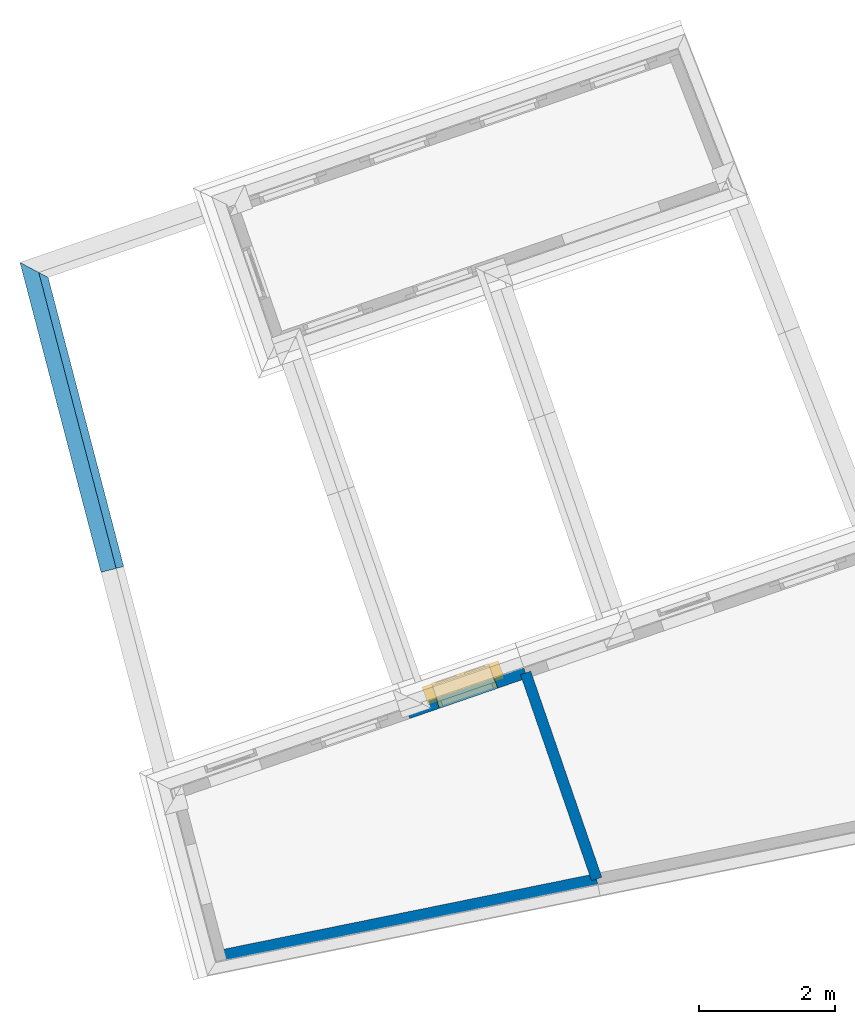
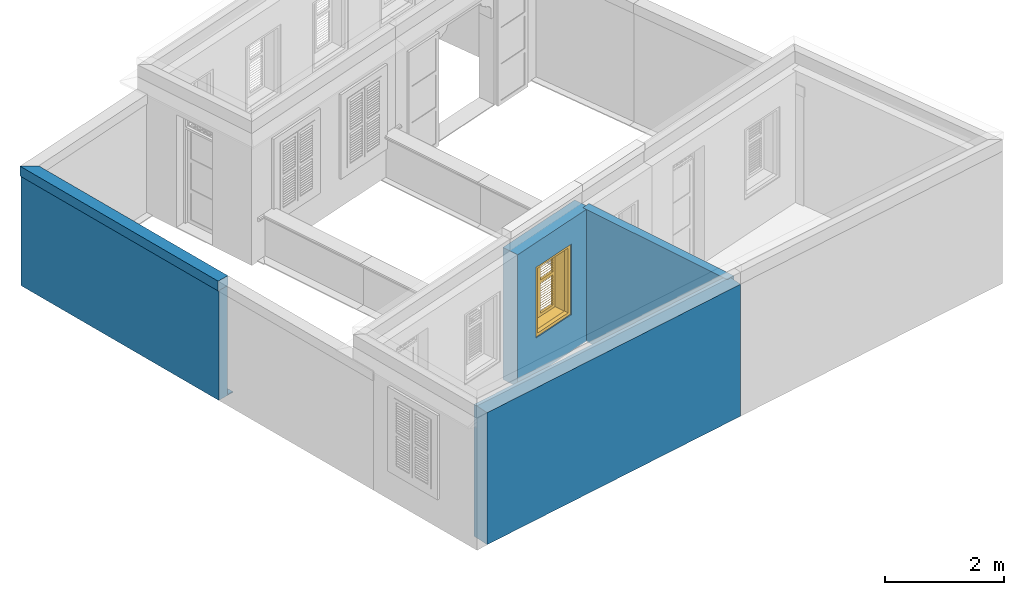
# One storey, part 4 of 16: 5 walls, 1 window, 1 opening.
"""IFC4 building model written with IfcOpenShell, lengths in metres."""

from ifc_helpers import new_model, si_unit, frame, origin, origin_with_axes, place, context, subcontext, project, spatial, polyline, outline, extrude, clip, halfspace, faceted_brep, source, transform, mapped, material, layer, layer_set, layer_usage, material_profile, profile_set, profile_usage, type_object, type_shapes, element, fill, save


model = new_model("IFC4")

# Units and contexts
model_context = context("Model", 3, world=origin_with_axes())
body_context = subcontext(model_context, "Body", "Model", "MODEL_VIEW")
ifc_project = project(units=[si_unit("PLANEANGLEUNIT", "RADIAN"), si_unit("MASSUNIT", "GRAM", prefix="KILO"), si_unit("FORCEUNIT", "NEWTON", prefix="KILO"), si_unit("LENGTHUNIT", "METRE"), si_unit("AREAUNIT", "SQUARE_METRE"), si_unit("VOLUMEUNIT", "CUBIC_METRE")], contexts=[model_context, model_context])

# Site, building, storey
site_placement = place(None, origin_with_axes())
site = spatial("IfcSite", under=ifc_project, at=site_placement, Name="Site plot-8", CompositionType="ELEMENT")
building_placement = place(None, origin_with_axes())
building = spatial("IfcBuilding", under=site, at=building_placement, Name="Building plot-8", CompositionType="ELEMENT")
storey_placement = place(None, frame((0.0, 0.0, 3.0), z_axis=(0.0, 0.0, 1.0), x_axis=(1.0, 0.0, 0.0)))
storey = spatial("IfcBuildingStorey", under=building, at=storey_placement, Name="plot-8 1", CompositionType="ELEMENT", Elevation=3.0)

# Wall, opening, window
ifc_material_1 = material(Name="Masonry")
ifc_layer_1 = layer(ifc_material_1, 0.33, ventilated=False)
ifc_layer_set_1 = layer_set([ifc_layer_1], Name="exterior_0.08_0.25")
ifc_layer_usage_1 = layer_usage(ifc_layer_set_1, "AXIS2", "POSITIVE", -0.25)
wall_type_1 = type_object("IfcWallType", Name="exterior_0.08_0.25", PredefinedType="SOLIDWALL", material=ifc_layer_set_1)
wall_1_placement = place(storey_placement, frame((-7.9574852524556, 15.6278516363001, 0.0), z_axis=(0.0, 0.0, 1.0), x_axis=(-0.945331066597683, -0.326112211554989, 0.0)))
wall_1 = element("IfcWall", 1, at=wall_1_placement, inside=storey, type_object=wall_type_1, material=ifc_layer_usage_1, Name="exterior", context=body_context, shape_type="SweptSolid", body=[
    extrude(outline(polyline([(4.11629879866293e-16, 0.0800000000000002), (8.47975353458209e-16, -0.25), (1.83415111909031, -0.25), (1.83415111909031, 0.08), (4.11629879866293e-16, 0.0800000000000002)])), origin_with_axes(), (0.0, 0.0, 1.0), 2.7),
])
opening_placement = place(wall_1_placement, frame((0.462075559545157, 0.0, 0.75)))
opening = element("IfcOpeningElement", 2, at=opening_placement, cuts=wall_1, Name="My Opening", ObjectType="Opening", context=body_context, shape_type="SweptSolid", body=[
    extrude(outline(polyline([(0.0, -0.27), (0.909999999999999, -0.27), (0.909999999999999, 1.1), (7.21644966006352e-16, 1.1), (0.0, -0.27)])), origin_with_axes(), (0.0, 0.0, 1.0), 1.445),
])
window_type = type_object("IfcWindowType", Name="shuttered_shorter", PartitioningType="DOUBLE_PANEL_HORIZONTAL", PredefinedType="NOTDEFINED")
shared_shape = source(origin(), body_context, "Body", "Brep", [
    faceted_brep([(0.393, 0.0, 0.622), (0.074, 0.0, 0.622), (0.074, 0.0, 0.632), (0.393, 0.0, 0.632), (0.074, -0.04, 0.592), (0.393, -0.04, 0.592), (0.393, -0.04, 0.582), (0.074, -0.04, 0.582), (0.517, 0.0, 0.682), (0.836, 0.0, 0.682), (0.836, 0.0, 0.672), (0.517, 0.0, 0.672), (0.517, -0.04, 0.642), (0.836, -0.04, 0.642), (0.836, -0.04, 0.632), (0.517, -0.04, 0.632), (0.517, 0.0, 0.632), (0.836, 0.0, 0.632), (0.836, 0.0, 0.622), (0.517, 0.0, 0.622), (0.517, -0.04, 0.592), (0.836, -0.04, 0.592), (0.836, -0.04, 0.582), (0.517, -0.04, 0.582), (0.517, 0.0, 0.232), (0.836, 0.0, 0.232), (0.836, 0.0, 0.222), (0.517, 0.0, 0.222), (0.517, -0.04, 0.192), (0.836, -0.04, 0.192), (0.836, -0.04, 0.182), (0.517, -0.04, 0.182), (0.517, 0.0, 0.532), (0.836, 0.0, 0.532), (0.836, 0.0, 0.522), (0.517, 0.0, 0.522), (0.517, -0.04, 0.492), (0.836, -0.04, 0.492), (0.836, -0.04, 0.482), (0.517, -0.04, 0.482), (0.517, 0.0, 0.482), (0.836, 0.0, 0.482), (0.836, 0.0, 0.472), (0.517, 0.0, 0.472), (0.517, -0.04, 0.442), (0.836, -0.04, 0.442), (0.836, -0.04, 0.432), (0.517, -0.04, 0.432), (0.517, 0.0, 0.582), (0.836, 0.0, 0.582), (0.836, 0.0, 0.572), (0.517, 0.0, 0.572), (0.517, -0.04, 0.542), (0.836, -0.04, 0.542), (0.836, -0.04, 0.532), (0.517, -0.04, 0.532), (0.517, 0.0, 0.182), (0.836, 0.0, 0.182), (0.836, 0.0, 0.172), (0.517, 0.0, 0.172), (0.517, -0.04, 0.142), (0.836, -0.04, 0.142), (0.836, -0.04, 0.132), (0.517, -0.04, 0.132), (0.517, 0.0, 0.382), (0.836, 0.0, 0.382), (0.836, 0.0, 0.372), (0.517, 0.0, 0.372), (0.517, -0.04, 0.342), (0.836, -0.04, 0.342), (0.836, -0.04, 0.332), (0.517, -0.04, 0.332), (0.517, 0.0, 0.432), (0.836, 0.0, 0.432), (0.836, 0.0, 0.422), (0.517, 0.0, 0.422), (0.517, -0.04, 0.392), (0.836, -0.04, 0.392), (0.836, -0.04, 0.382), (0.517, -0.04, 0.382), (0.517, 0.0, 0.132), (0.836, 0.0, 0.132), (0.836, 0.0, 0.122), (0.517, 0.0, 0.122), (0.517, -0.04, 0.092), (0.836, -0.04, 0.092), (0.836, -0.04, 0.082), (0.517, -0.04, 0.082), (0.517, 0.0, 0.282), (0.836, 0.0, 0.282), (0.836, 0.0, 0.272), (0.517, 0.0, 0.272), (0.517, -0.04, 0.242), (0.836, -0.04, 0.242), (0.836, -0.04, 0.232), (0.517, -0.04, 0.232), (0.517, 0.0, 0.332), (0.836, 0.0, 0.332), (0.836, 0.0, 0.322), (0.517, 0.0, 0.322), (0.517, -0.04, 0.292), (0.836, -0.04, 0.292), (0.836, -0.04, 0.282), (0.517, -0.04, 0.282), (0.517, 0.0, 1.362667), (0.836, 0.0, 1.362667), (0.836, 0.0, 1.352667), (0.517, 0.0, 1.352667), (0.517, -0.04, 1.322667), (0.836, -0.04, 1.322667), (0.836, -0.04, 1.312667), (0.517, -0.04, 1.312667), (0.517, 0.0, 1.312667), (0.836, 0.0, 1.312667), (0.836, 0.0, 1.302667), (0.517, 0.0, 1.302667), (0.517, -0.04, 1.272667), (0.836, -0.04, 1.272667), (0.836, -0.04, 1.262667), (0.517, -0.04, 1.262667), (0.517, 0.0, 0.912667), (0.836, 0.0, 0.912667), (0.836, 0.0, 0.902667), (0.517, 0.0, 0.902667), (0.517, -0.04, 0.872667), (0.836, -0.04, 0.872667), (0.836, -0.04, 0.862667), (0.517, -0.04, 0.862667), (0.517, 0.0, 1.212667), (0.836, 0.0, 1.212667), (0.836, 0.0, 1.202667), (0.517, 0.0, 1.202667), (0.517, -0.04, 1.172667), (0.836, -0.04, 1.172667), (0.836, -0.04, 1.162667), (0.517, -0.04, 1.162667), (0.517, 0.0, 1.162667), (0.836, 0.0, 1.162667), (0.836, 0.0, 1.152667), (0.517, 0.0, 1.152667), (0.517, -0.04, 1.122667), (0.836, -0.04, 1.122667), (0.836, -0.04, 1.112667), (0.517, -0.04, 1.112667), (0.517, 0.0, 1.262667), (0.836, 0.0, 1.262667), (0.836, 0.0, 1.252667), (0.517, 0.0, 1.252667), (0.517, -0.04, 1.222667), (0.836, -0.04, 1.222667), (0.836, -0.04, 1.212667), (0.517, -0.04, 1.212667), (0.517, 0.0, 0.862667), (0.836, 0.0, 0.862667), (0.836, 0.0, 0.852667), (0.517, 0.0, 0.852667), (0.517, -0.04, 0.822667), (0.836, -0.04, 0.822667), (0.836, -0.04, 0.812667), (0.517, -0.04, 0.812667), (0.517, 0.0, 1.062667), (0.836, 0.0, 1.062667), (0.836, 0.0, 1.052667), (0.517, 0.0, 1.052667), (0.517, -0.04, 1.022667), (0.836, -0.04, 1.022667), (0.836, -0.04, 1.012667), (0.517, -0.04, 1.012667), (0.517, 0.0, 1.112667), (0.836, 0.0, 1.112667), (0.836, 0.0, 1.102667), (0.517, 0.0, 1.102667), (0.517, -0.04, 1.072667), (0.836, -0.04, 1.072667), (0.836, -0.04, 1.062667), (0.517, -0.04, 1.062667), (0.517, 0.0, 0.812667), (0.836, 0.0, 0.812667), (0.836, 0.0, 0.802667), (0.517, 0.0, 0.802667), (0.517, -0.04, 0.772667), (0.836, -0.04, 0.772667), (0.836, -0.04, 0.762667), (0.517, -0.04, 0.762667), (0.517, 0.0, 0.962667), (0.836, 0.0, 0.962667), (0.836, 0.0, 0.952667), (0.517, 0.0, 0.952667), (0.517, -0.04, 0.922667), (0.836, -0.04, 0.922667), (0.836, -0.04, 0.912667), (0.517, -0.04, 0.912667), (0.517, 0.0, 1.012667), (0.836, 0.0, 1.012667), (0.836, 0.0, 1.002667), (0.517, 0.0, 1.002667), (0.517, -0.04, 0.972667), (0.836, -0.04, 0.972667), (0.836, -0.04, 0.962667), (0.517, -0.04, 0.962667), (0.074, 0.0, 0.682), (0.393, 0.0, 0.682), (0.393, 0.0, 0.672), (0.074, 0.0, 0.672), (0.074, -0.04, 0.642), (0.393, -0.04, 0.642), (0.393, -0.04, 0.632), (0.074, -0.04, 0.632), (0.074, 0.0, 0.232), (0.393, 0.0, 0.232), (0.393, 0.0, 0.222), (0.074, 0.0, 0.222), (0.074, -0.04, 0.192), (0.393, -0.04, 0.192), (0.393, -0.04, 0.182), (0.074, -0.04, 0.182), (0.074, 0.0, 0.532), (0.393, 0.0, 0.532), (0.393, 0.0, 0.522), (0.074, 0.0, 0.522), (0.074, -0.04, 0.492), (0.393, -0.04, 0.492), (0.393, -0.04, 0.482), (0.074, -0.04, 0.482), (0.074, 0.0, 0.482), (0.393, 0.0, 0.482), (0.393, 0.0, 0.472), (0.074, 0.0, 0.472), (0.074, -0.04, 0.442), (0.393, -0.04, 0.442), (0.393, -0.04, 0.432), (0.074, -0.04, 0.432), (0.074, 0.0, 0.582), (0.393, 0.0, 0.582), (0.393, 0.0, 0.572), (0.074, 0.0, 0.572), (0.074, -0.04, 0.542), (0.393, -0.04, 0.542), (0.393, -0.04, 0.532), (0.074, -0.04, 0.532), (0.074, 0.0, 0.182), (0.393, 0.0, 0.182), (0.393, 0.0, 0.172), (0.074, 0.0, 0.172), (0.074, -0.04, 0.142), (0.393, -0.04, 0.142), (0.393, -0.04, 0.132), (0.074, -0.04, 0.132), (0.074, 0.0, 0.382), (0.393, 0.0, 0.382), (0.393, 0.0, 0.372), (0.074, 0.0, 0.372), (0.074, -0.04, 0.342), (0.393, -0.04, 0.342), (0.393, -0.04, 0.332), (0.074, -0.04, 0.332), (0.074, 0.0, 0.432), (0.393, 0.0, 0.432), (0.393, 0.0, 0.422), (0.074, 0.0, 0.422), (0.074, -0.04, 0.392), (0.393, -0.04, 0.392), (0.393, -0.04, 0.382), (0.074, -0.04, 0.382), (0.074, 0.0, 0.132), (0.393, 0.0, 0.132), (0.393, 0.0, 0.122), (0.074, 0.0, 0.122), (0.074, -0.04, 0.092), (0.393, -0.04, 0.092), (0.393, -0.04, 0.082), (0.074, -0.04, 0.082), (0.074, 0.0, 0.282), (0.393, 0.0, 0.282), (0.393, 0.0, 0.272), (0.074, 0.0, 0.272), (0.074, -0.04, 0.242), (0.393, -0.04, 0.242), (0.393, -0.04, 0.232), (0.074, -0.04, 0.232), (0.074, 0.0, 0.332), (0.393, 0.0, 0.332), (0.393, 0.0, 0.322), (0.074, 0.0, 0.322), (0.074, -0.04, 0.292), (0.393, -0.04, 0.292), (0.393, -0.04, 0.282), (0.074, -0.04, 0.282), (0.074, 0.0, 1.362667), (0.393, 0.0, 1.362667), (0.393, 0.0, 1.352667), (0.074, 0.0, 1.352667), (0.074, -0.04, 1.322667), (0.393, -0.04, 1.322667), (0.393, -0.04, 1.312667), (0.074, -0.04, 1.312667), (0.074, 0.0, 1.312667), (0.393, 0.0, 1.312667), (0.393, 0.0, 1.302667), (0.074, 0.0, 1.302667), (0.074, -0.04, 1.272667), (0.393, -0.04, 1.272667), (0.393, -0.04, 1.262667), (0.074, -0.04, 1.262667), (0.074, 0.0, 0.912667), (0.393, 0.0, 0.912667), (0.393, 0.0, 0.902667), (0.074, 0.0, 0.902667), (0.074, -0.04, 0.872667), (0.393, -0.04, 0.872667), (0.393, -0.04, 0.862667), (0.074, -0.04, 0.862667), (0.074, 0.0, 1.212667), (0.393, 0.0, 1.212667), (0.393, 0.0, 1.202667), (0.074, 0.0, 1.202667), (0.074, -0.04, 1.172667), (0.393, -0.04, 1.172667), (0.393, -0.04, 1.162667), (0.074, -0.04, 1.162667), (0.074, 0.0, 1.162667), (0.393, 0.0, 1.162667), (0.393, 0.0, 1.152667), (0.074, 0.0, 1.152667), (0.074, -0.04, 1.122667), (0.393, -0.04, 1.122667), (0.393, -0.04, 1.112667), (0.074, -0.04, 1.112667), (0.074, 0.0, 1.262667), (0.393, 0.0, 1.262667), (0.393, 0.0, 1.252667), (0.074, 0.0, 1.252667), (0.074, -0.04, 1.222667), (0.393, -0.04, 1.222667), (0.393, -0.04, 1.212667), (0.074, -0.04, 1.212667), (0.074, 0.0, 0.862667), (0.393, 0.0, 0.862667), (0.393, 0.0, 0.852667), (0.074, 0.0, 0.852667), (0.074, -0.04, 0.822667), (0.393, -0.04, 0.822667), (0.393, -0.04, 0.812667), (0.074, -0.04, 0.812667), (0.074, 0.0, 1.062667), (0.393, 0.0, 1.062667), (0.393, 0.0, 1.052667), (0.074, 0.0, 1.052667), (0.074, -0.04, 1.022667), (0.393, -0.04, 1.022667), (0.393, -0.04, 1.012667), (0.074, -0.04, 1.012667), (0.074, 0.0, 1.112667), (0.393, 0.0, 1.112667), (0.393, 0.0, 1.102667), (0.074, 0.0, 1.102667), (0.074, -0.04, 1.072667), (0.393, -0.04, 1.072667), (0.393, -0.04, 1.062667), (0.074, -0.04, 1.062667), (0.074, 0.0, 0.812667), (0.393, 0.0, 0.812667), (0.393, 0.0, 0.802667), (0.074, 0.0, 0.802667), (0.074, -0.04, 0.772667), (0.393, -0.04, 0.772667), (0.393, -0.04, 0.762667), (0.074, -0.04, 0.762667), (0.074, 0.0, 0.962667), (0.393, 0.0, 0.962667), (0.393, 0.0, 0.952667), (0.074, 0.0, 0.952667), (0.074, -0.04, 0.922667), (0.393, -0.04, 0.922667), (0.393, -0.04, 0.912667), (0.074, -0.04, 0.912667), (0.074, 0.0, 1.012667), (0.393, 0.0, 1.012667), (0.393, 0.0, 1.002667), (0.074, 0.0, 1.002667), (0.074, -0.04, 0.972667), (0.393, -0.04, 0.972667), (0.393, -0.04, 0.962667), (0.074, -0.04, 0.962667), (0.517, -0.04, 0.072), (0.457, -0.04, 0.012), (0.896, -0.04, 0.012), (0.836, -0.04, 0.072), (0.457, -0.04, 0.692667), (0.517, -0.04, 0.692667), (0.457, 0.0, 0.012), (0.896, 0.0, 0.012), (0.836, -0.04, 0.692667), (0.896, -0.04, 0.692667), (0.836, 0.0, 0.072), (0.517, 0.0, 0.072), (0.457, 0.0, 0.692667), (0.517, 0.0, 0.692667), (0.517, -0.04, 0.752666), (0.457, -0.04, 0.752666), (0.896, 0.0, 0.692667), (0.836, 0.0, 0.692667), (0.836, -0.04, 0.752666), (0.896, -0.04, 0.752666), (0.457, 0.0, 0.752666), (0.457, -0.04, 1.433333), (0.517, -0.04, 1.373333), (0.896, 0.0, 0.752666), (0.836, -0.04, 1.373333), (0.896, -0.04, 1.433333), (0.457, 0.0, 1.433333), (0.517, 0.0, 0.752666), (0.836, 0.0, 0.752666), (0.517, 0.0, 1.373333), (0.896, 0.0, 1.433333), (0.836, 0.0, 1.373333), (0.074, -0.04, 0.072), (0.014, -0.04, 0.012), (0.453, -0.04, 0.012), (0.393, -0.04, 0.072), (0.014, -0.04, 0.692667), (0.074, -0.04, 0.692667), (0.014, 0.0, 0.012), (0.453, 0.0, 0.012), (0.393, -0.04, 0.692667), (0.453, -0.04, 0.692667), (0.393, 0.0, 0.072), (0.074, 0.0, 0.072), (0.014, 0.0, 0.692667), (0.074, 0.0, 0.692667), (0.074, -0.04, 0.752666), (0.014, -0.04, 0.752666), (0.453, 0.0, 0.692667), (0.393, 0.0, 0.692667), (0.393, -0.04, 0.752666), (0.453, -0.04, 0.752666), (0.014, 0.0, 0.752666), (0.014, -0.04, 1.433333), (0.074, -0.04, 1.373333), (0.453, 0.0, 0.752666), (0.393, -0.04, 1.373333), (0.453, -0.04, 1.433333), (0.014, 0.0, 1.433333), (0.074, 0.0, 0.752666), (0.393, 0.0, 0.752666), (0.074, 0.0, 1.373333), (0.453, 0.0, 1.433333), (0.393, 0.0, 1.373333), (0.0, 0.33, 1.445), (0.91, 0.33, 1.445), (0.85, 0.33, 1.385), (0.06, 0.33, 1.385), (0.91, 0.25, 1.445), (0.0, 0.25, 1.445), (0.91, 0.25, 1.445), (0.85, 0.33, 0.06), (0.91, 0.33, 0.0), (0.85, 0.25, 1.385), (0.06, 0.25, 1.385), (0.0, 0.33, 0.0), (0.06, 0.33, 0.06), (0.0, 0.25, 0.0), (0.91, 0.25, 0.0), (0.85, 0.25, 0.06), (0.06, 0.25, 0.06), (1.05, 0.25, 1.585), (-0.14, 0.25, 1.585), (-0.14, -0.03, 1.585), (1.05, -0.03, 1.585), (0.9, -0.03, 1.435), (0.01, -0.03, 1.435), (0.01, 0.25, 1.435), (0.9, 0.25, 1.435), (0.9, 0.25, 0.01), (0.9, -0.03, 0.01), (1.05, -0.03, -0.14), (1.05, 0.25, -0.14), (0.01, -0.03, 0.01), (0.01, 0.25, 0.01), (-0.14, -0.03, -0.14), (-0.14, 0.25, -0.14)], [[[0, 1, 2, 3]], [[4, 5, 3, 2]], [[5, 6, 0, 3]], [[1, 0, 6, 7]], [[2, 1, 7, 4]], [[5, 4, 7, 6]], [[8, 9, 10, 11]], [[12, 13, 9, 8]], [[13, 14, 10, 9]], [[14, 15, 11, 10]], [[15, 12, 8, 11]], [[13, 12, 15, 14]], [[16, 17, 18, 19]], [[20, 21, 17, 16]], [[21, 22, 18, 17]], [[22, 23, 19, 18]], [[23, 20, 16, 19]], [[21, 20, 23, 22]], [[24, 25, 26, 27]], [[28, 29, 25, 24]], [[29, 30, 26, 25]], [[30, 31, 27, 26]], [[31, 28, 24, 27]], [[29, 28, 31, 30]], [[32, 33, 34, 35]], [[36, 37, 33, 32]], [[37, 38, 34, 33]], [[38, 39, 35, 34]], [[39, 36, 32, 35]], [[37, 36, 39, 38]], [[40, 41, 42, 43]], [[44, 45, 41, 40]], [[45, 46, 42, 41]], [[46, 47, 43, 42]], [[47, 44, 40, 43]], [[45, 44, 47, 46]], [[48, 49, 50, 51]], [[52, 53, 49, 48]], [[53, 54, 50, 49]], [[54, 55, 51, 50]], [[55, 52, 48, 51]], [[53, 52, 55, 54]], [[56, 57, 58, 59]], [[60, 61, 57, 56]], [[61, 62, 58, 57]], [[62, 63, 59, 58]], [[63, 60, 56, 59]], [[61, 60, 63, 62]], [[64, 65, 66, 67]], [[68, 69, 65, 64]], [[69, 70, 66, 65]], [[70, 71, 67, 66]], [[71, 68, 64, 67]], [[69, 68, 71, 70]], [[72, 73, 74, 75]], [[76, 77, 73, 72]], [[77, 78, 74, 73]], [[78, 79, 75, 74]], [[79, 76, 72, 75]], [[77, 76, 79, 78]], [[80, 81, 82, 83]], [[84, 85, 81, 80]], [[85, 86, 82, 81]], [[86, 87, 83, 82]], [[87, 84, 80, 83]], [[85, 84, 87, 86]], [[88, 89, 90, 91]], [[92, 93, 89, 88]], [[93, 94, 90, 89]], [[94, 95, 91, 90]], [[95, 92, 88, 91]], [[93, 92, 95, 94]], [[96, 97, 98, 99]], [[100, 101, 97, 96]], [[101, 102, 98, 97]], [[102, 103, 99, 98]], [[103, 100, 96, 99]], [[101, 100, 103, 102]], [[104, 105, 106, 107]], [[108, 109, 105, 104]], [[109, 110, 106, 105]], [[110, 111, 107, 106]], [[111, 108, 104, 107]], [[109, 108, 111, 110]], [[112, 113, 114, 115]], [[116, 117, 113, 112]], [[117, 118, 114, 113]], [[118, 119, 115, 114]], [[119, 116, 112, 115]], [[117, 116, 119, 118]], [[120, 121, 122, 123]], [[124, 125, 121, 120]], [[125, 126, 122, 121]], [[126, 127, 123, 122]], [[127, 124, 120, 123]], [[125, 124, 127, 126]], [[128, 129, 130, 131]], [[132, 133, 129, 128]], [[133, 134, 130, 129]], [[134, 135, 131, 130]], [[135, 132, 128, 131]], [[133, 132, 135, 134]], [[136, 137, 138, 139]], [[140, 141, 137, 136]], [[141, 142, 138, 137]], [[142, 143, 139, 138]], [[139, 143, 140, 136]], [[141, 140, 143, 142]], [[144, 145, 146, 147]], [[148, 149, 145, 144]], [[149, 150, 146, 145]], [[150, 151, 147, 146]], [[151, 148, 144, 147]], [[149, 148, 151, 150]], [[152, 153, 154, 155]], [[156, 157, 153, 152]], [[157, 158, 154, 153]], [[158, 159, 155, 154]], [[159, 156, 152, 155]], [[157, 156, 159, 158]], [[160, 161, 162, 163]], [[164, 165, 161, 160]], [[165, 166, 162, 161]], [[166, 167, 163, 162]], [[167, 164, 160, 163]], [[165, 164, 167, 166]], [[168, 169, 170, 171]], [[172, 173, 169, 168]], [[173, 174, 170, 169]], [[174, 175, 171, 170]], [[175, 172, 168, 171]], [[173, 172, 175, 174]], [[176, 177, 178, 179]], [[180, 181, 177, 176]], [[181, 182, 178, 177]], [[182, 183, 179, 178]], [[183, 180, 176, 179]], [[181, 180, 183, 182]], [[184, 185, 186, 187]], [[188, 189, 185, 184]], [[189, 190, 186, 185]], [[190, 191, 187, 186]], [[191, 188, 184, 187]], [[189, 188, 191, 190]], [[192, 193, 194, 195]], [[196, 197, 193, 192]], [[197, 198, 194, 193]], [[198, 199, 195, 194]], [[199, 196, 192, 195]], [[197, 196, 199, 198]], [[200, 201, 202, 203]], [[204, 205, 201, 200]], [[205, 206, 202, 201]], [[206, 207, 203, 202]], [[207, 204, 200, 203]], [[205, 204, 207, 206]], [[208, 209, 210, 211]], [[212, 213, 209, 208]], [[213, 214, 210, 209]], [[214, 215, 211, 210]], [[215, 212, 208, 211]], [[213, 212, 215, 214]], [[216, 217, 218, 219]], [[220, 221, 217, 216]], [[221, 222, 218, 217]], [[222, 223, 219, 218]], [[223, 220, 216, 219]], [[221, 220, 223, 222]], [[224, 225, 226, 227]], [[228, 229, 225, 224]], [[229, 230, 226, 225]], [[230, 231, 227, 226]], [[231, 228, 224, 227]], [[229, 228, 231, 230]], [[232, 233, 234, 235]], [[236, 237, 233, 232]], [[237, 238, 234, 233]], [[238, 239, 235, 234]], [[239, 236, 232, 235]], [[237, 236, 239, 238]], [[240, 241, 242, 243]], [[244, 245, 241, 240]], [[245, 246, 242, 241]], [[246, 247, 243, 242]], [[247, 244, 240, 243]], [[245, 244, 247, 246]], [[248, 249, 250, 251]], [[252, 253, 249, 248]], [[253, 254, 250, 249]], [[254, 255, 251, 250]], [[255, 252, 248, 251]], [[253, 252, 255, 254]], [[256, 257, 258, 259]], [[260, 261, 257, 256]], [[261, 262, 258, 257]], [[262, 263, 259, 258]], [[263, 260, 256, 259]], [[261, 260, 263, 262]], [[264, 265, 266, 267]], [[268, 269, 265, 264]], [[269, 270, 266, 265]], [[270, 271, 267, 266]], [[271, 268, 264, 267]], [[269, 268, 271, 270]], [[272, 273, 274, 275]], [[276, 277, 273, 272]], [[277, 278, 274, 273]], [[278, 279, 275, 274]], [[279, 276, 272, 275]], [[277, 276, 279, 278]], [[280, 281, 282, 283]], [[284, 285, 281, 280]], [[285, 286, 282, 281]], [[286, 287, 283, 282]], [[287, 284, 280, 283]], [[285, 284, 287, 286]], [[288, 289, 290, 291]], [[292, 293, 289, 288]], [[293, 294, 290, 289]], [[294, 295, 291, 290]], [[295, 292, 288, 291]], [[293, 292, 295, 294]], [[296, 297, 298, 299]], [[300, 301, 297, 296]], [[301, 302, 298, 297]], [[302, 303, 299, 298]], [[303, 300, 296, 299]], [[301, 300, 303, 302]], [[304, 305, 306, 307]], [[308, 309, 305, 304]], [[309, 310, 306, 305]], [[310, 311, 307, 306]], [[311, 308, 304, 307]], [[309, 308, 311, 310]], [[312, 313, 314, 315]], [[316, 317, 313, 312]], [[317, 318, 314, 313]], [[318, 319, 315, 314]], [[319, 316, 312, 315]], [[317, 316, 319, 318]], [[320, 321, 322, 323]], [[324, 325, 321, 320]], [[325, 326, 322, 321]], [[326, 327, 323, 322]], [[327, 324, 320, 323]], [[325, 324, 327, 326]], [[328, 329, 330, 331]], [[332, 333, 329, 328]], [[333, 334, 330, 329]], [[334, 335, 331, 330]], [[335, 332, 328, 331]], [[333, 332, 335, 334]], [[336, 337, 338, 339]], [[340, 341, 337, 336]], [[341, 342, 338, 337]], [[342, 343, 339, 338]], [[343, 340, 336, 339]], [[341, 340, 343, 342]], [[344, 345, 346, 347]], [[348, 349, 345, 344]], [[349, 350, 346, 345]], [[350, 351, 347, 346]], [[351, 348, 344, 347]], [[349, 348, 351, 350]], [[352, 353, 354, 355]], [[356, 357, 353, 352]], [[357, 358, 354, 353]], [[358, 359, 355, 354]], [[359, 356, 352, 355]], [[357, 356, 359, 358]], [[360, 361, 362, 363]], [[364, 365, 361, 360]], [[365, 366, 362, 361]], [[366, 367, 363, 362]], [[367, 364, 360, 363]], [[365, 364, 367, 366]], [[368, 369, 370, 371]], [[372, 373, 369, 368]], [[373, 374, 370, 369]], [[374, 375, 371, 370]], [[375, 372, 368, 371]], [[373, 372, 375, 374]], [[376, 377, 378, 379]], [[380, 381, 377, 376]], [[381, 382, 378, 377]], [[382, 383, 379, 378]], [[383, 380, 376, 379]], [[381, 380, 383, 382]], [[384, 385, 386, 387]], [[388, 385, 384, 389]], [[390, 391, 386, 385]], [[392, 387, 386, 393]], [[384, 387, 394, 395]], [[390, 385, 388, 396]], [[389, 384, 395, 397]], [[389, 398, 399, 388]], [[390, 395, 394, 391]], [[400, 393, 386, 391]], [[387, 392, 401, 394]], [[402, 392, 393, 403]], [[396, 388, 399, 404]], [[390, 396, 397, 395]], [[392, 389, 397, 401]], [[398, 389, 392, 402]], [[405, 399, 398, 406]], [[394, 401, 400, 391]], [[407, 403, 393, 400]], [[408, 402, 403, 409]], [[404, 399, 405, 410]], [[411, 397, 396, 404]], [[397, 411, 412, 401]], [[398, 402, 412, 411]], [[406, 398, 411, 413]], [[405, 406, 408, 409]], [[401, 412, 407, 400]], [[414, 409, 403, 407]], [[402, 408, 415, 412]], [[405, 409, 414, 410]], [[404, 410, 413, 411]], [[408, 406, 413, 415]], [[412, 415, 414, 407]], [[413, 410, 414, 415]], [[416, 417, 418, 419]], [[420, 417, 416, 421]], [[422, 423, 418, 417]], [[424, 419, 418, 425]], [[416, 419, 426, 427]], [[422, 417, 420, 428]], [[421, 416, 427, 429]], [[421, 430, 431, 420]], [[422, 427, 426, 423]], [[432, 425, 418, 423]], [[419, 424, 433, 426]], [[434, 424, 425, 435]], [[428, 420, 431, 436]], [[422, 428, 429, 427]], [[424, 421, 429, 433]], [[430, 421, 424, 434]], [[437, 431, 430, 438]], [[426, 433, 432, 423]], [[439, 435, 425, 432]], [[440, 434, 435, 441]], [[436, 431, 437, 442]], [[443, 429, 428, 436]], [[429, 443, 444, 433]], [[430, 434, 444, 443]], [[438, 430, 443, 445]], [[437, 438, 440, 441]], [[433, 444, 439, 432]], [[446, 441, 435, 439]], [[434, 440, 447, 444]], [[437, 441, 446, 442]], [[436, 442, 445, 443]], [[440, 438, 445, 447]], [[444, 447, 446, 439]], [[445, 442, 446, 447]], [[448, 449, 450, 451]], [[452, 449, 448]], [[448, 453, 454]], [[448, 454, 452]], [[455, 450, 449, 456]], [[451, 450, 457, 458]], [[459, 448, 451, 460]], [[448, 459, 461, 453]], [[454, 453, 458, 457]], [[462, 452, 454]], [[454, 457, 463]], [[454, 463, 462]], [[456, 449, 452, 462]], [[450, 455, 463, 457]], [[456, 459, 460, 455]], [[460, 451, 458, 464]], [[459, 456, 462, 461]], [[464, 458, 453, 461]], [[461, 462, 463, 464]], [[455, 460, 464, 463]], [[465, 466, 467, 468]], [[469, 470, 471, 472]], [[473, 474, 469, 472]], [[465, 468, 475, 476]], [[470, 477, 478, 471]], [[474, 473, 478, 477]], [[474, 477, 479, 475]], [[470, 467, 479, 477]], [[470, 469, 468, 467]], [[474, 475, 468, 469]], [[471, 478, 480, 466]], [[473, 472, 465, 476]], [[473, 476, 480, 478]], [[466, 465, 472, 471]], [[480, 476, 475, 479]], [[480, 479, 467, 466]]]),
])
type_shapes(window_type, [shared_shape])
window_placement = place(storey_placement, frame((-8.48234993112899, 15.7324025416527, 0.75), z_axis=(0.0, 0.0, 1.0), x_axis=(-0.860251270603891, -0.29676211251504, 0.0)))
window = element("IfcWindow", 3, at=window_placement, inside=storey, type_object=window_type, Name="bedroom outside window", OverallHeight=1.445, OverallWidth=0.91, context=body_context, shape_type="MappedRepresentation", body=[
    mapped(shared_shape, transform((0.0, 0.0, 0.0), scale=1.0)),
])
fill(opening, window)

# Walls
ifc_material_2 = material(Name="Masonry")
ifc_layer_2 = layer(ifc_material_2, 0.33, ventilated=False)
ifc_layer_set_2 = layer_set([ifc_layer_2], Name="party_0.08_0.25")
ifc_layer_usage_2 = layer_usage(ifc_layer_set_2, "AXIS2", "POSITIVE", -0.25)
wall_type_2 = type_object("IfcWallType", Name="party_0.08_0.25", PredefinedType="SOLIDWALL", material=ifc_layer_set_2)
wall_2_placement = place(storey_placement, frame((-12.4645724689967, 11.4609506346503, 0.0), z_axis=(0.0, 0.0, 1.0), x_axis=(0.979990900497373, 0.199042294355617, 0.0)))
element("IfcWall", 4, at=wall_2_placement, inside=storey, type_object=wall_type_2, material=ifc_layer_usage_2, Name="party", context=body_context, shape_type="SweptSolid", body=[
    extrude(outline(polyline([(2.89115681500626e-16, 0.0799999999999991), (-5.95314578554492e-16, -0.249999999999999), (5.6687376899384, -0.249999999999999), (5.6687376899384, 0.0799999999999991), (2.89115681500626e-16, 0.0799999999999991)])), origin_with_axes(), (0.0, 0.0, 1.0), 2.7),
])
ifc_material_3 = material(Name="Masonry")
ifc_layer_3 = layer(ifc_material_3, 0.16, ventilated=False)
ifc_layer_set_3 = layer_set([ifc_layer_3], Name="interior_0.08_0.08")
ifc_layer_usage_3 = layer_usage(ifc_layer_set_3, "AXIS2", "POSITIVE", -0.08)
wall_type_3 = type_object("IfcWallType", Name="interior_0.08_0.08", PredefinedType="SOLIDWALL", material=ifc_layer_set_3)
wall_3_placement = place(storey_placement, frame((-7.9574852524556, 15.6278516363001, 0.0), z_axis=(0.0, 0.0, 1.0), x_axis=(0.326112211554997, -0.945331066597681, 0.0)))
element("IfcWall", 5, at=wall_3_placement, inside=storey, type_object=wall_type_3, material=ifc_layer_usage_3, Name="interior", context=body_context, shape_type="SweptSolid", body=[
    extrude(outline(polyline([(-9.01043400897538e-16, 0.08), (6.24792700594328e-16, -0.0800000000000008), (3.21430507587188, -0.08), (3.21430507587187, 0.0799999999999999), (-9.01043400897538e-16, 0.08)])), origin_with_axes(), (0.0, 0.0, 1.0), 2.7),
])
ifc_material_profile_1 = material_profile(None, outline(polyline([(0.25, 0.0), (0.25, 2.245), (0.05, 2.245), (0.05, 0.02), (-0.08, 0.02), (-0.08, 0.0), (0.25, 0.0)])))
ifc_profile_set_1 = profile_set([ifc_material_profile_1])
ifc_profile_usage_1 = profile_usage(ifc_profile_set_1)
wall_type_4 = type_object("IfcWallType", Name="parapet street_0", PredefinedType="PARAPET", material=ifc_profile_set_1)
wall_4_placement = place(storey_placement, frame((-13.70653469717, 16.2096146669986, 0.0), z_axis=(-0.253028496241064, 0.967458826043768, 0.0), x_axis=(-0.967458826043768, -0.253028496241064, 0.0)))
element("IfcWall", 6, at=wall_4_placement, inside=storey, type_object=wall_type_4, material=ifc_profile_usage_1, Name="parapet street_0", context=body_context, shape_type="Clipping", body=[
    clip(clip(extrude(outline(polyline([(0.25, 0.0), (0.25, 2.245), (0.05, 2.245), (0.05, 0.02), (-0.08, 0.02), (-0.08, 0.0), (0.25, 0.0)])), origin_with_axes(), (0.0, 0.0, 1.0), 6.47694509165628), halfspace(frame((0.0, 0.0, 5.47694509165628), z_axis=(0.679593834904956, 0.0, -0.733588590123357), x_axis=(0.0, 1.0, 0.0)), True)), halfspace(frame((0.0, 0.0, 1.0), z_axis=(-9.49410759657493e-16, 0.0, -1.0), x_axis=(0.0, 1.0, 0.0)), False)),
])
ifc_material_profile_2 = material_profile(None, outline(polyline([(0.265, 2.245), (0.265, 2.445), (0.035, 2.445), (0.035, 2.245), (0.265, 2.245)])))
ifc_profile_set_2 = profile_set([ifc_material_profile_2])
ifc_profile_usage_2 = profile_usage(ifc_profile_set_2)
wall_type_5 = type_object("IfcWallType", Name="parapet street_1", PredefinedType="PARAPET", material=ifc_profile_set_2)
wall_5_placement = place(storey_placement, frame((-13.70653469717, 16.2096146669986, 0.0), z_axis=(-0.253028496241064, 0.967458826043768, 0.0), x_axis=(-0.967458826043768, -0.253028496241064, 0.0)))
element("IfcWall", 7, at=wall_5_placement, inside=storey, type_object=wall_type_5, material=ifc_profile_usage_2, Name="parapet street_1", context=body_context, shape_type="Clipping", body=[
    clip(clip(extrude(outline(polyline([(0.265, 2.245), (0.265, 2.445), (0.035, 2.445), (0.035, 2.245), (0.265, 2.245)])), origin_with_axes(), (0.0, 0.0, 1.0), 6.47694509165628), halfspace(frame((0.0, 0.0, 5.47694509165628), z_axis=(0.679593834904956, 0.0, -0.733588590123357), x_axis=(0.0, 1.0, 0.0)), True)), halfspace(frame((0.0, 0.0, 1.0), z_axis=(-9.49410759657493e-16, 0.0, -1.0), x_axis=(0.0, 1.0, 0.0)), False)),
])

save(model, "model.ifc")
